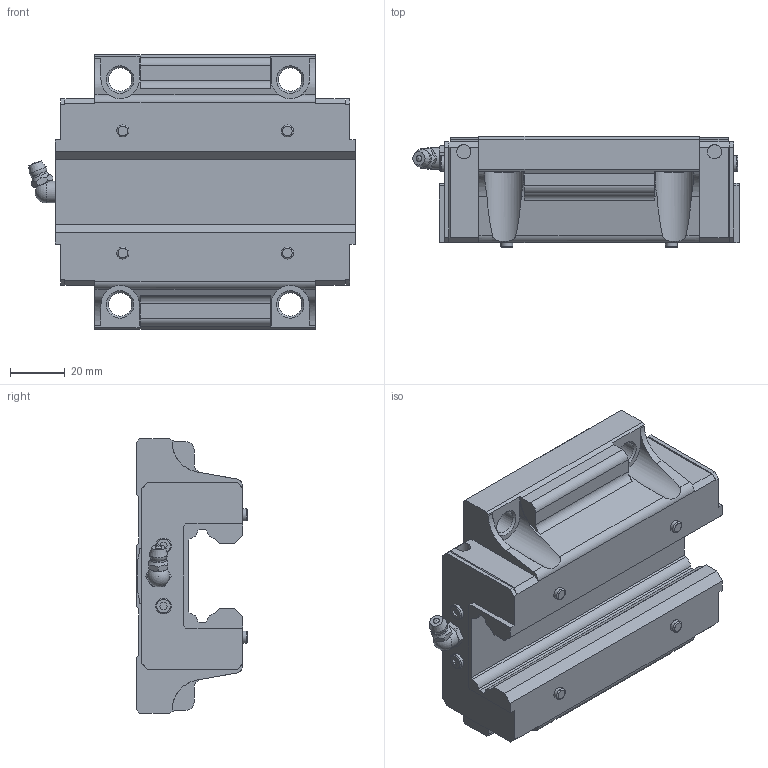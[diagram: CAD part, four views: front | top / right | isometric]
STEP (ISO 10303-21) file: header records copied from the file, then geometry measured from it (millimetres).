
FILE_DESCRIPTION(/* description */ ('STEP AP203'),/* implementation_level */ '2;1');
FILE_NAME(/* name */ 'HSR35C1SS(GK) BLOCK(1B-M6F)',/* time_stamp */ '2024-05-21T04:55:13+02:00',/* author */ ('License CC BY-ND 4.0'),/* organization */ ('CADENAS'),/* preprocessor_version */ 'ST-DEVELOPER v19.3',/* originating_system */ 'PARTsolutions',/* authorisation */ ' ');
FILE_SCHEMA (('CONFIG_CONTROL_DESIGN'));
Length unit declared in the file: millimetre
Products named in the file (3): HSR35C1SS(GK) BLOCK(1B-M6F); HSR35CSSB-M6F11 S; hsr_ftht_B-M6F_grease_nipple_joint
Assembly tree (2 placements, depth 2):
  HSR35C1SS(GK) BLOCK(1B-M6F)
    HSR35CSSB-M6F11 S
    hsr_ftht_B-M6F_grease_nipple_joint
Bounding box: 119 x 40.5 x 100 mm (x, y, z)
Volume: 264960.9 mm3; surface area: 40641.3 mm2
Topology: 2 solids, 2 shells, 270 faces, 722 edges, 471 vertices
Faces by surface type: plane 188, cylinder 48, cone 21, torus 10, sphere 3
Full cylindrical faces by diameter (mm): 4.369 x4, 4.917 x2, 5.2 x4, 5.7 x4, 6 x1, 6.2 x2, 8 x1, 8.5 x4
Entity records: 8105 total; most frequent: CARTESIAN_POINT 1546, ORIENTED_EDGE 1304, DIRECTION 1304, EDGE_CURVE 652, LINE 474, VECTOR 474, VERTEX_POINT 453, AXIS2_PLACEMENT_3D 415
